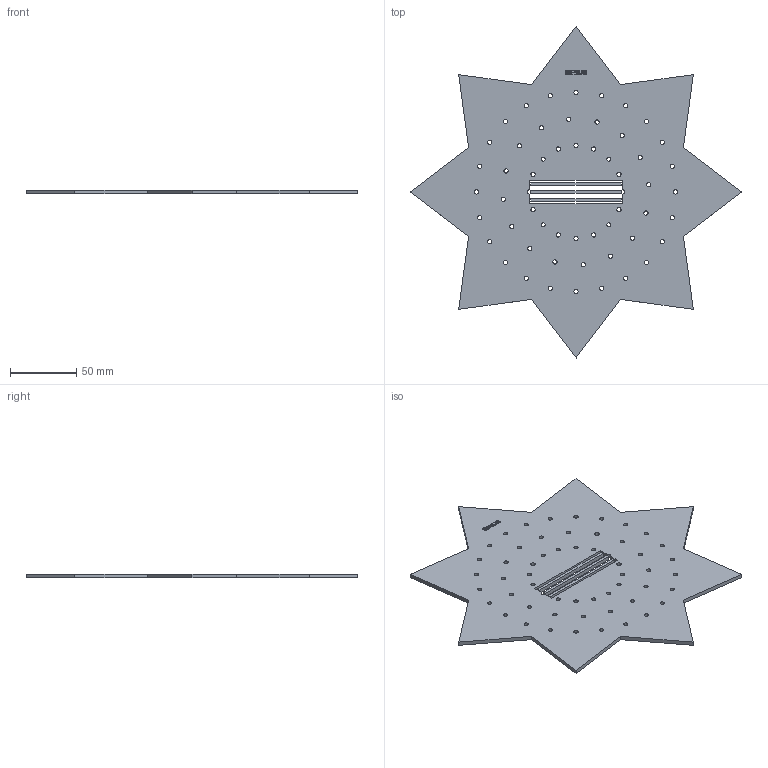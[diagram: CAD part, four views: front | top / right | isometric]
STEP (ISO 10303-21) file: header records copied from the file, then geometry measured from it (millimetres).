
FILE_DESCRIPTION(('Open CASCADE Model'),'2;1');
FILE_NAME('Open CASCADE Shape Model','2026-07-20T15:40:32',('Author'),( 'Open CASCADE'),'Open CASCADE STEP processor 7.7','Open CASCADE 7.7' ,'Unknown');
FILE_SCHEMA(('AUTOMOTIVE_DESIGN { 1 0 10303 214 1 1 1 1 }'));
Length unit declared in the file: millimetre
Products named in the file (6): Open CASCADE STEP translator 7.7 2; Open CASCADE STEP translator 7.7 2.1; Open CASCADE STEP translator 7.7 2.1.1; Open CASCADE STEP translator 7.7 2.1.2; Open CASCADE STEP translator 7.7 2.1.3; Open CASCADE STEP translator 7.7 2.1.4
Assembly tree (5 placements, depth 3):
  Open CASCADE STEP translator 7.7 2
    Open CASCADE STEP translator 7.7 2.1
      Open CASCADE STEP translator 7.7 2.1.1
      Open CASCADE STEP translator 7.7 2.1.2
      Open CASCADE STEP translator 7.7 2.1.3
      Open CASCADE STEP translator 7.7 2.1.4
Bounding box: 250 x 250 x 3 mm (x, y, z)
Volume: 96169.1 mm3; surface area: 70931.9 mm2
Topology: 4 solids, 4 shells, 223 faces, 600 edges, 400 vertices
Faces by surface type: plane 86, extrusion 73, cylinder 64
Full cylindrical faces by diameter (mm): 3.2 x54, 6.15 x8
Entity records: 15523 total; most frequent: CARTESIAN_POINT 3857, DIRECTION 1878, VECTOR 1293, LINE 1220, ORIENTED_EDGE 1200, PCURVE 1200, DEFINITIONAL_REPRESENTATION 1200, EDGE_CURVE 600
